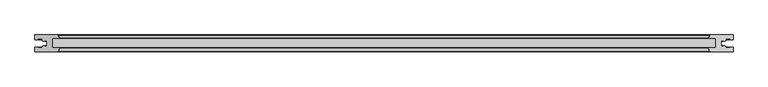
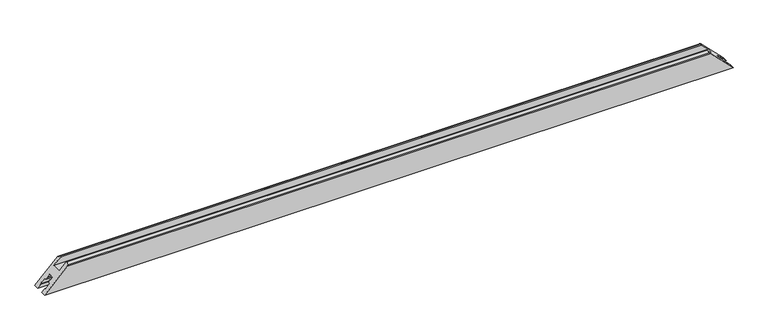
"""IFC4 building model written with IfcOpenShell, lengths in millimetres: proxy geometry, Weiku - Montante - Folha de correr 02.2.01.020 : Weiku - Montante - Folha de correr 02.2.01.020."""

from ifc_helpers import new_model, si_unit, frame, origin, place, context, project, spatial, ellipse_curve, source, transform, mapped, element, save
from ifc_brep_helpers import plane_surface, cylinder_surface, advanced_brep


def generic_models_0f8673ff(model_context):
    return source(origin(), model_context, "Body", "AdvancedBrep", [
        advanced_brep(
        [(1022.7, -50.0, 0.0), (956.2004942, -50.0, 66.4995058), (-956.2004942, -50.0, 66.4995058), (-1022.7, -50.0, 0.0), (-1022.7, -35.5, 0.0), (1022.7, -35.5, 0.0), (-1022.7, 0.0, 0.0), (-955.1879875, 0.0, 67.5120125), (955.1879875, 0.0, 67.5120125), (1022.7, 0.0, 0.0), (-953.3027168, -47.7764571, 69.3972832), (-950.7177981, -38.1294095, 71.9822019), (-951.2007611, -37.5, 71.4992389), (-971.7007611, -37.5, 50.9992389), (-971.7007611, -9.5, 50.9992389), (-951.9141895, -9.5, 70.7858105), (-950.7520406, -7.617411, 71.9479594), (-954.2940268, -0.5518546, 68.4059732), (-1022.7, -14.5, 0.0), (-1014.1, -14.5, 8.6), (-1014.1, -11.7, 8.6), (-1000.9, -11.7, 21.8), (-1000.9, -16.9, 21.8), (-998.5524152, -16.9, 24.1475848), (-998.7273926, -18.9, 23.9726074), (-995.9, -18.9, 26.8), (-995.9, -16.9, 26.8), (-988.7, -16.9, 34.0), (-988.7, -33.1, 34.0), (-995.9, -33.1, 26.8), (-995.9, -31.1, 26.8), (-998.7273926, -31.1, 23.9726074), (-998.5524152, -33.1, 24.1475848), (-1000.9, -33.1, 21.8), (-1000.9, -38.3, 21.8), (-1014.1, -38.3, 8.6), (-1014.1, -35.5, 8.6), (1014.1, -35.5, 8.6), (1014.1, -38.3, 8.6), (1000.9, -38.3, 21.8), (1000.9, -33.1, 21.8), (998.5524152, -33.1, 24.1475848), (998.7273926, -31.1, 23.9726074), (995.9, -31.1, 26.8), (995.9, -33.1, 26.8), (988.7, -33.1, 34.0), (988.7, -16.9, 34.0), (995.9, -16.9, 26.8), (995.9, -18.9, 26.8), (998.7273926, -18.9, 23.9726074), (998.5524152, -16.9, 24.1475848), (1000.9, -16.9, 21.8), (1000.9, -11.7, 21.8), (1014.1, -11.7, 8.6), (1014.1, -14.5, 8.6), (1022.7, -14.5, 0.0), (954.2940268, -0.5518546, 68.4059732), (950.7520406, -7.617411, 71.9479594), (951.9141895, -9.5, 70.7858105), (971.7007611, -9.5, 50.9992389), (971.7007611, -37.5, 50.9992389), (951.2007611, -37.5, 71.4992389), (950.7177981, -38.1294095, 71.9822019), (953.3027168, -47.7764571, 69.3972832)],
        [
            (0, 1),
            (1, 2),
            (2, 3),
            (3, 0),
            (3, 4),
            (4, 5),
            (5, 0),
            (6, 7),
            (7, 8),
            (8, 9),
            (9, 6),
            (2, 10, ellipse_curve(frame((-956.2004942, -47.0, 66.4995058), z_axis=(-0.7071067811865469, 0.0, 0.7071067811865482), x_axis=(-0.707106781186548, 0.0, -0.7071067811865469)), 4.2426407, 3.0)),
            (10, 11),
            (11, 12, ellipse_curve(frame((-951.2007611, -38.0, 71.4992389), z_axis=(-0.7071067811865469, 0.0, 0.7071067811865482), x_axis=(-0.707106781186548, 0.0, -0.7071067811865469)), 0.7071068, 0.5)),
            (12, 13),
            (13, 14),
            (14, 15),
            (15, 16, ellipse_curve(frame((-951.9141895, -8.2, 70.7858105), z_axis=(-0.7071067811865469, 0.0, 0.7071067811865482), x_axis=(-0.707106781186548, 0.0, -0.7071067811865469)), 1.8384776, 1.3)),
            (16, 17),
            (17, 7, ellipse_curve(frame((-955.1879875, -1.0, 67.5120125), z_axis=(-0.7071067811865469, 0.0, 0.7071067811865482), x_axis=(-0.707106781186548, 0.0, -0.7071067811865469)), 1.4142136, 1.0)),
            (6, 18),
            (18, 19),
            (19, 20),
            (20, 21),
            (21, 22),
            (22, 23),
            (23, 24),
            (24, 25),
            (25, 26),
            (26, 27),
            (27, 28),
            (28, 29),
            (29, 30),
            (30, 31),
            (31, 32),
            (32, 33),
            (33, 34),
            (34, 35),
            (35, 36),
            (36, 4),
            (5, 37),
            (37, 38),
            (38, 39),
            (39, 40),
            (40, 41),
            (41, 42),
            (42, 43),
            (43, 44),
            (44, 45),
            (45, 46),
            (46, 47),
            (47, 48),
            (48, 49),
            (49, 50),
            (50, 51),
            (51, 52),
            (52, 53),
            (53, 54),
            (54, 55),
            (55, 9),
            (8, 56, ellipse_curve(frame((955.1879875, -1.0, 67.5120125), z_axis=(0.7071067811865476, 0.0, 0.7071067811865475), x_axis=(-0.7071067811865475, 0.0, 0.7071067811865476)), 1.4142136, 1.0)),
            (56, 57),
            (57, 58, ellipse_curve(frame((951.9141895, -8.2, 70.7858105), z_axis=(0.7071067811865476, 0.0, 0.7071067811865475), x_axis=(-0.7071067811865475, 0.0, 0.7071067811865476)), 1.8384776, 1.3)),
            (58, 59),
            (59, 60),
            (60, 61),
            (61, 62, ellipse_curve(frame((951.2007611, -38.0, 71.4992389), z_axis=(0.7071067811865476, 0.0, 0.7071067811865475), x_axis=(-0.7071067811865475, 0.0, 0.7071067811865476)), 0.7071068, 0.5)),
            (62, 63),
            (63, 1, ellipse_curve(frame((956.2004942, -47.0, 66.4995058), z_axis=(0.7071067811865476, 0.0, 0.7071067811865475), x_axis=(-0.7071067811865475, 0.0, 0.7071067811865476)), 4.2426407, 3.0)),
            (17, 56),
            (16, 57),
            (15, 58),
            (14, 59),
            (13, 60),
            (12, 61),
            (11, 62),
            (10, 63),
            (36, 37),
            (35, 38),
            (34, 39),
            (33, 40),
            (32, 41),
            (31, 42),
            (30, 43),
            (29, 44),
            (28, 45),
            (27, 46),
            (26, 47),
            (25, 48),
            (24, 49),
            (23, 50),
            (22, 51),
            (21, 52),
            (20, 53),
            (19, 54),
            (18, 55),
        ],
        [
            plane_surface(frame((-1022.7, -50.0, 66.4995058), z_axis=(0.0, -1.0, 0.0), x_axis=(1.0, 0.0, 0.0))),
            plane_surface(frame((-1022.7, -50.0, 0.0), z_axis=(0.0, 0.0, -1.0), x_axis=(1.0, 0.0, 0.0))),
            plane_surface(frame((-1022.7, 0.0, 0.0), z_axis=(0.0, 1.0, 0.0), x_axis=(1.0, 0.0, 0.0))),
            plane_surface(frame((-1050.9842712, 0.0, -28.2842712), z_axis=(-0.7071067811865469, 0.0, 0.7071067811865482), x_axis=(0.0, -1.0, 0.0))),
            plane_surface(frame((942.7, 0.0, 80.0), z_axis=(0.7071067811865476, 0.0, 0.7071067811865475), x_axis=(0.0, -1.0, 0.0))),
            cylinder_surface(frame((-1022.7, -1.0, 67.5120125), z_axis=(-1.0, 0.0, 0.0), x_axis=(0.0, -1.0, 0.0)), 1.0),
            plane_surface(frame((-1022.7, -0.5518546, 68.4059732), z_axis=(0.0, 0.4481453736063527, 0.8939606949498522), x_axis=(1.0, 0.0, 0.0))),
            cylinder_surface(frame((-1022.7, -8.2, 70.7858105), z_axis=(-1.0, 0.0, 0.0), x_axis=(0.0, -1.0, 0.0)), 1.3),
            plane_surface(frame((-1022.7, -9.5, 70.7858105), z_axis=(0.0, -1.0, 0.0), x_axis=(1.0, 0.0, 0.0))),
            plane_surface(frame((-1022.7, -9.5, 50.9992389), z_axis=(0.0, 0.0, 1.0), x_axis=(1.0, 0.0, 0.0))),
            plane_surface(frame((-1022.7, -37.5, 50.9992389), z_axis=(0.0, 1.0, 0.0), x_axis=(1.0, 0.0, 0.0))),
            cylinder_surface(frame((-1022.7, -38.0, 71.4992389), z_axis=(-1.0, 0.0, 0.0), x_axis=(0.0, -1.0, 0.0)), 0.5),
            plane_surface(frame((-1022.7, -38.1294095, 71.9822019), z_axis=(0.0, -0.2588190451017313, 0.9659258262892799), x_axis=(1.0, 0.0, 0.0))),
            cylinder_surface(frame((-1022.7, -47.0, 66.4995058), z_axis=(-1.0, 0.0, 0.0), x_axis=(0.0, -1.0, 0.0)), 3.0),
            plane_surface(frame((-1022.7, -35.5, 0.0), z_axis=(0.0, 1.0, 0.0), x_axis=(1.0, 0.0, 0.0))),
            plane_surface(frame((-1022.7, -35.5, 8.6), z_axis=(0.0, 0.0, 1.0), x_axis=(1.0, 0.0, 0.0))),
            plane_surface(frame((-1022.7, -38.3, 8.6), z_axis=(0.0, 1.0, 0.0), x_axis=(1.0, 0.0, 0.0))),
            plane_surface(frame((-1022.7, -38.3, 21.8), z_axis=(0.0, 0.0, -1.0), x_axis=(1.0, 0.0, 0.0))),
            plane_surface(frame((-1022.7, -33.1, 21.8), z_axis=(0.0, 1.0, 0.0), x_axis=(1.0, 0.0, 0.0))),
            plane_surface(frame((-1022.7, -33.1, 24.1475848), z_axis=(0.0, -0.08715574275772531, -0.9961946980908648), x_axis=(1.0, 0.0, 0.0))),
            plane_surface(frame((-1022.7, -31.1, 23.9726074), z_axis=(0.0, 1.0, 0.0), x_axis=(1.0, 0.0, 0.0))),
            plane_surface(frame((-1022.7, -31.1, 26.8), z_axis=(0.0, 0.0, 1.0), x_axis=(1.0, 0.0, 0.0))),
            plane_surface(frame((-1022.7, -33.1, 26.8), z_axis=(0.0, 1.0, 0.0), x_axis=(1.0, 0.0, 0.0))),
            plane_surface(frame((-1022.7, -33.1, 34.0), z_axis=(0.0, 0.0, -1.0), x_axis=(1.0, 0.0, 0.0))),
            plane_surface(frame((-1022.7, -16.9, 34.0), z_axis=(0.0, -1.0, 0.0), x_axis=(1.0, 0.0, 0.0))),
            plane_surface(frame((-1022.7, -16.9, 26.8), z_axis=(0.0, 0.0, 1.0), x_axis=(1.0, 0.0, 0.0))),
            plane_surface(frame((-1022.7, -18.9, 26.8), z_axis=(0.0, -1.0, 0.0), x_axis=(1.0, 0.0, 0.0))),
            plane_surface(frame((-1022.7, -18.9, 23.9726074), z_axis=(0.0, 0.08715574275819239, -0.9961946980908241), x_axis=(1.0, 0.0, 0.0))),
            plane_surface(frame((-1022.7, -16.9, 24.1475848), z_axis=(0.0, -1.0, 0.0), x_axis=(1.0, 0.0, 0.0))),
            plane_surface(frame((-1022.7, -16.9, 21.8), z_axis=(0.0, 0.0, -1.0), x_axis=(1.0, 0.0, 0.0))),
            plane_surface(frame((-1022.7, -11.7, 21.8), z_axis=(0.0, -1.0, 0.0), x_axis=(1.0, 0.0, 0.0))),
            plane_surface(frame((-1022.7, -11.7, 8.6), z_axis=(0.0, 0.0, 1.0), x_axis=(1.0, 0.0, 0.0))),
            plane_surface(frame((-1022.7, -14.5, 8.6), z_axis=(0.0, -1.0, 0.0), x_axis=(1.0, 0.0, 0.0))),
            plane_surface(frame((-1022.7, -14.5, 0.0), z_axis=(0.0, 0.0, -1.0), x_axis=(1.0, 0.0, 0.0))),
        ],
        [
            (0, [[1, 2, 3, 4]]),
            (1, [[5, 6, 7, -4]]),
            (2, [[8, 9, 10, 11]]),
            (3, [[12, 13, 14, 15, 16, 17, 18, 19, 20, -8, 21, 22, 23, 24, 25, 26, 27, 28, 29, 30, 31, 32, 33, 34, 35, 36, 37, 38, 39, 40, -5, -3]]),
            (4, [[-7, 41, 42, 43, 44, 45, 46, 47, 48, 49, 50, 51, 52, 53, 54, 55, 56, 57, 58, 59, 60, -10, 61, 62, 63, 64, 65, 66, 67, 68, 69, -1]]),
            (5, [[70, -61, -9, -20]]),
            (6, [[71, -62, -70, -19]]),
            (7, [[72, -63, -71, -18]]),
            (8, [[73, -64, -72, -17]]),
            (9, [[74, -65, -73, -16]]),
            (10, [[75, -66, -74, -15]]),
            (11, [[76, -67, -75, -14]]),
            (12, [[77, -68, -76, -13]]),
            (13, [[-2, -69, -77, -12]]),
            (14, [[-40, 78, -41, -6]]),
            (15, [[79, -42, -78, -39]]),
            (16, [[80, -43, -79, -38]]),
            (17, [[81, -44, -80, -37]]),
            (18, [[82, -45, -81, -36]]),
            (19, [[83, -46, -82, -35]]),
            (20, [[84, -47, -83, -34]]),
            (21, [[85, -48, -84, -33]]),
            (22, [[86, -49, -85, -32]]),
            (23, [[87, -50, -86, -31]]),
            (24, [[88, -51, -87, -30]]),
            (25, [[89, -52, -88, -29]]),
            (26, [[90, -53, -89, -28]]),
            (27, [[91, -54, -90, -27]]),
            (28, [[92, -55, -91, -26]]),
            (29, [[93, -56, -92, -25]]),
            (30, [[94, -57, -93, -24]]),
            (31, [[95, -58, -94, -23]]),
            (32, [[-59, -95, -22, 96]]),
            (33, [[-60, -96, -21, -11]]),
        ],
    ),
    ])


if __name__ == "__main__":
    model = new_model("IFC4")
    model_context = context("Model", 3, world=origin())
    ifc_project = project(units=[si_unit("LENGTHUNIT", "METRE", prefix="MILLI")], contexts=[model_context])
    site = spatial("IfcSite", under=ifc_project)
    building = spatial("IfcBuilding", under=site)
    placement = place(None, origin())
    generic_models_shape = generic_models_0f8673ff(model_context)
    element("IfcBuildingElementProxy", 1, Name="Weiku - Montante - Folha de correr 02.2.01.020 : Weiku - Montante - Folha de correr 02.2.01.020", ObjectType="Weiku - Montante - Folha de correr 02.2.01.020 : Weiku - Montante - Folha de correr 02.2.01.020", at=placement, inside=building, context=model_context, shape_type="MappedRepresentation", body=[
        mapped(generic_models_shape, transform((0.0, 0.0, 0.0), x_axis=(1.0, 0.0, 0.0), y_axis=(0.0, 1.0, 0.0), z_axis=(0.0, 0.0, 1.0))),
    ])
    save(model, "model.ifc")
